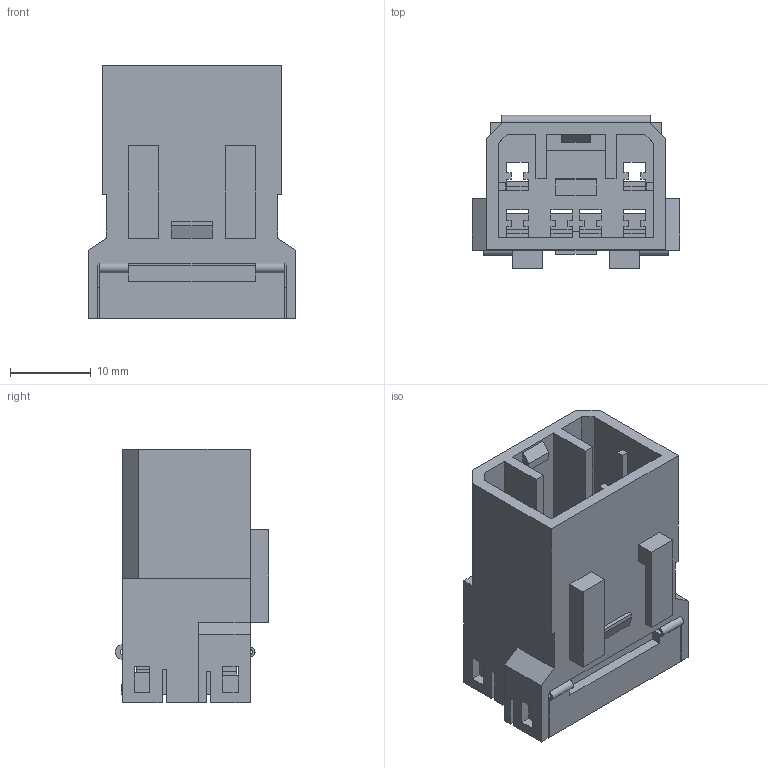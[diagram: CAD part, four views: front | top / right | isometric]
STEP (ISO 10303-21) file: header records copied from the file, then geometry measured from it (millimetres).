
FILE_DESCRIPTION((''),'2;1');
FILE_NAME('C-0175657-01-3','2007-09-02T',('workeradm'),('Tyco Electronics Corporation'),'PRO/ENGINEER BY PARAMETRIC TECHNOLOGY CORPORATION, 2005450','PRO/ENGINEER BY PARAMETRIC TECHNOLOGY CORPORATION, 2005450','');
FILE_SCHEMA(('CONFIG_CONTROL_DESIGN', 'GEOMETRIC_VALIDATION_PROPERTIES_MIM'));
Length unit declared in the file: millimetre
Products named in the file (1): C-0175657-01-3
Bounding box: 25.7 x 19 x 31.4 mm (x, y, z)
Volume: 5617.2 mm3; surface area: 7165.5 mm2
Topology: 1 solids, 1 shells, 334 faces, 1017 edges, 672 vertices
Faces by surface type: plane 323, cylinder 9, extrusion 2
Entity records: 11355 total; most frequent: CARTESIAN_POINT 2063, ORIENTED_EDGE 2034, DIRECTION 1697, EDGE_CURVE 1017, VECTOR 997, LINE 995, VERTEX_POINT 672, EDGE_LOOP 351
